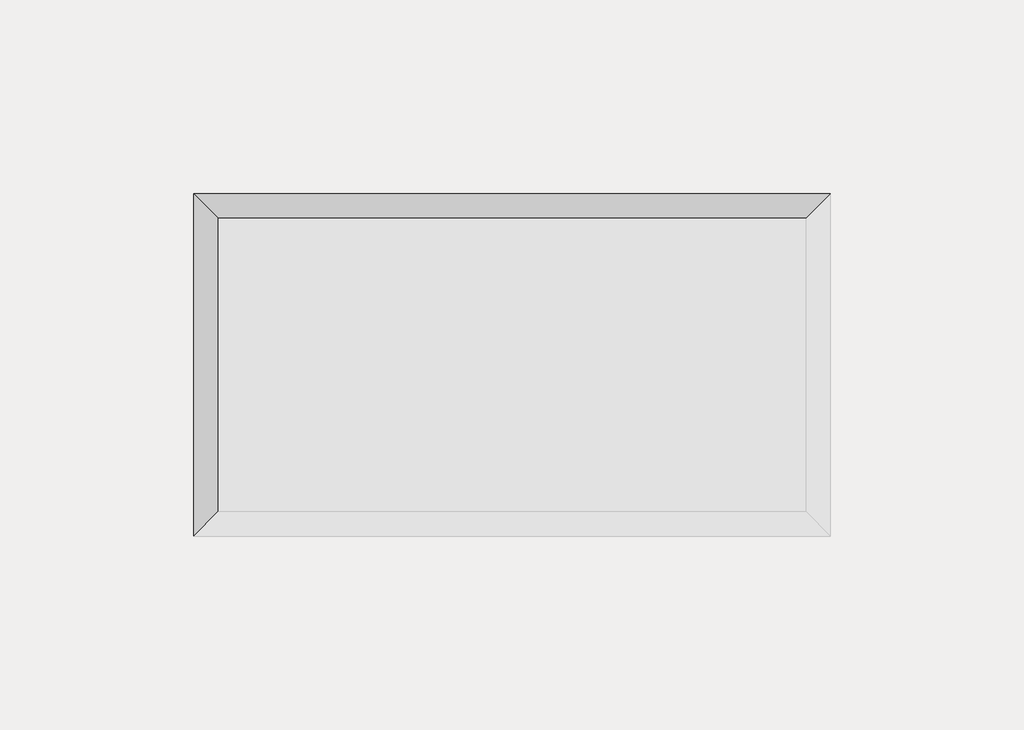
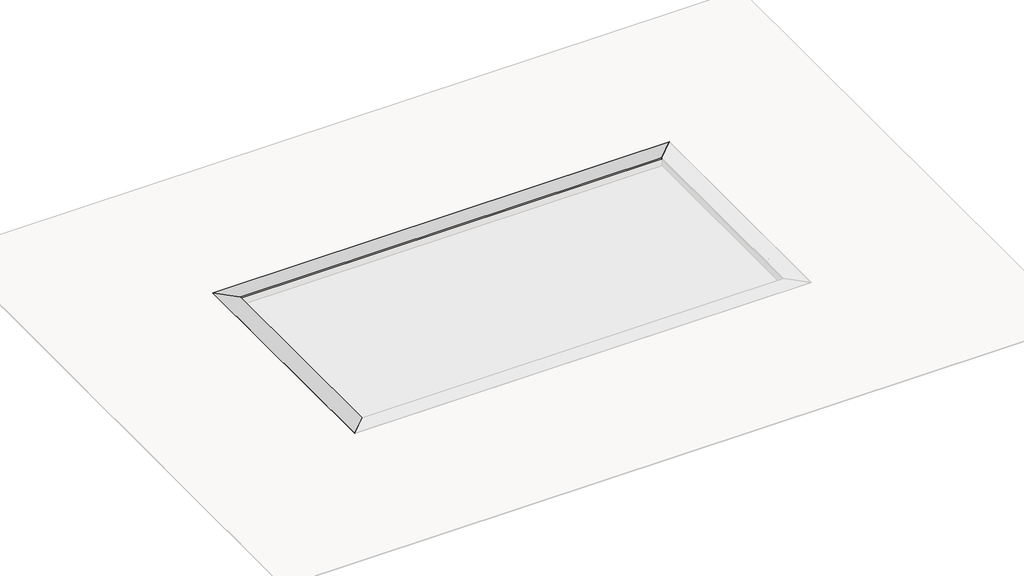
# One storey, part 2 of 6: 5 proxies.
"""IFC4 building model written with IfcOpenShell, lengths in millimetres."""

from ifc_helpers import new_model, si_unit, origin, place, context, project, spatial, faceted_brep, transform, mapped, element, save
from components import generic_models_9f74ba0b

model = new_model("IFC4")

# Units and contexts
model_context = context("Model", 3, world=origin())
ifc_project = project(units=[si_unit("LENGTHUNIT", "METRE", prefix="MILLI")], contexts=[model_context])

# Site, building, storey
site = spatial("IfcSite", under=ifc_project)
building = spatial("IfcBuilding", under=site)
storey = spatial("IfcBuildingStorey", under=building, Name="EXAGRES_NUBIA Series_Pool_Examples", Elevation=18000.0)

# Proxies
placement = place(None, origin())
element("IfcBuildingElementProxy", 1, Name="Wall Sweeps", at=placement, inside=storey, context=model_context, shape_type="Brep", body=[
    faceted_brep([(-13341.8828161, -4530.6632512, 18000.0), (-13328.8828161, -4543.6632512, 18000.0), (-13328.8828161, -4543.6632512, 18033.0), (-13658.8828161, -4213.6632512, 18033.0), (-13658.8828161, -4213.6632512, 18021.0), (-13652.8828161, -4219.6632512, 18021.0), (-13652.8828161, -4219.6632512, 18022.0), (-13648.8828161, -4223.6632512, 18022.0), (-13648.8828161, -4223.6632512, 18021.0), (-13642.8828161, -4229.6632512, 18021.0), (-13642.8828161, -4229.6632512, 18022.0), (-13638.8828161, -4233.6632512, 18022.0), (-13638.8828161, -4233.6632512, 18021.0), (-13632.8828161, -4239.6632512, 18021.0), (-13632.8828161, -4239.6632512, 18022.0), (-13628.8828161, -4243.6632512, 18022.0), (-13628.8828161, -4243.6632512, 18021.0), (-13622.8828161, -4249.6632512, 18021.0), (-13622.8828161, -4249.6632512, 18022.0), (-13618.8828161, -4253.6632512, 18022.0), (-13618.8828161, -4253.6632512, 18021.0), (-13612.8828161, -4259.6632512, 18021.0), (-13612.8828161, -4259.6632512, 18022.0), (-13608.8828161, -4263.6632512, 18022.0), (-13608.8828161, -4263.6632512, 18021.0), (-13602.8828161, -4269.6632512, 18021.0), (-13602.8828161, -4269.6632512, 18022.0), (-13598.8828161, -4273.6632512, 18022.0), (-13598.8828161, -4273.6632512, 18021.0), (-13592.8828161, -4279.6632512, 18021.0), (-13592.8828161, -4279.6632512, 18022.0), (-13588.8828161, -4283.6632512, 18022.0), (-13588.8828161, -4283.6632512, 18021.0), (-13582.8828161, -4289.6632512, 18021.0), (-13582.8828161, -4289.6632512, 18022.0), (-13578.8828161, -4293.6632512, 18022.0), (-13578.8828161, -4293.6632512, 18021.0), (-13572.8828161, -4299.6632512, 18021.0), (-13572.8828161, -4299.6632512, 18022.0), (-13568.8828161, -4303.6632512, 18022.0), (-13568.8828161, -4303.6632512, 18021.0), (-13562.8828161, -4309.6632512, 18021.0), (-13562.8828161, -4309.6632512, 18022.0), (-13558.8828161, -4313.6632512, 18022.0), (-13558.8828161, -4313.6632512, 18021.0), (-13552.8828161, -4319.6632512, 18021.0), (-13552.8828161, -4319.6632512, 18022.0), (-13548.8828161, -4323.6632512, 18022.0), (-13548.8828161, -4323.6632512, 18021.0), (-13542.8828161, -4329.6632512, 18021.0), (-13542.8828161, -4329.6632512, 18022.0), (-13538.8828161, -4333.6632512, 18022.0), (-13538.8828161, -4333.6632512, 18021.0), (-13532.8828161, -4339.6632512, 18021.0), (-13532.8828161, -4339.6632512, 18022.0), (-13528.8828161, -4343.6632512, 18022.0), (-13528.8828161, -4343.6632512, 18021.0), (-13522.8828161, -4349.6632512, 18021.0), (-13522.8828161, -4349.6632512, 18022.0), (-13518.8828161, -4353.6632512, 18022.0), (-13518.8828161, -4353.6632512, 18021.0), (-13512.8828161, -4359.6632512, 18021.0), (-13512.8828161, -4359.6632512, 18022.0), (-13508.8828161, -4363.6632512, 18022.0), (-13508.8828161, -4363.6632512, 18021.0), (-13502.8828161, -4369.6632512, 18021.0), (-13502.8828161, -4369.6632512, 18022.0), (-13498.8828161, -4373.6632512, 18022.0), (-13498.8828161, -4373.6632512, 18021.0), (-13492.8828161, -4379.6632512, 18021.0), (-13492.8828161, -4379.6632512, 18022.0), (-13488.8828161, -4383.6632512, 18022.0), (-13488.8828161, -4383.6632512, 18021.0), (-13482.8828161, -4389.6632512, 18021.0), (-13482.8828161, -4389.6632512, 18022.0), (-13478.8828161, -4393.6632512, 18022.0), (-13478.8828161, -4393.6632512, 18021.0), (-13472.8828161, -4399.6632512, 18021.0), (-13472.8828161, -4399.6632512, 18022.0), (-13468.8828161, -4403.6632512, 18022.0), (-13468.8828161, -4403.6632512, 18021.0), (-13462.8828161, -4409.6632512, 18021.0), (-13462.8828161, -4409.6632512, 18022.0), (-13458.8828161, -4413.6632512, 18022.0), (-13458.8828161, -4413.6632512, 18021.0), (-13452.8828161, -4419.6632512, 18021.0), (-13452.8828161, -4419.6632512, 18022.0), (-13448.8828161, -4423.6632512, 18022.0), (-13448.8828161, -4423.6632512, 18021.0), (-13442.8828161, -4429.6632512, 18021.0), (-13442.8828161, -4429.6632512, 18022.0), (-13438.8828161, -4433.6632512, 18022.0), (-13438.8828161, -4433.6632512, 18021.0), (-13432.8828161, -4439.6632512, 18021.0), (-13432.8828161, -4439.6632512, 18022.0), (-13428.8828161, -4443.6632512, 18022.0), (-13428.8828161, -4443.6632512, 18021.0), (-13422.8828161, -4449.6632512, 18021.0), (-13422.8828161, -4449.6632512, 18022.0), (-13418.8828161, -4453.6632512, 18022.0), (-13418.8828161, -4453.6632512, 18021.0), (-13412.8828161, -4459.6632512, 18021.0), (-13412.8828161, -4459.6632512, 18022.0), (-13408.8828161, -4463.6632512, 18022.0), (-13408.8828161, -4463.6632512, 18021.0), (-13402.8828161, -4469.6632512, 18021.0), (-13402.8828161, -4469.6632512, 18022.0), (-13398.8828161, -4473.6632512, 18022.0), (-13398.8828161, -4473.6632512, 18021.0), (-13392.8828161, -4479.6632512, 18021.0), (-13392.8828161, -4479.6632512, 18022.0), (-13388.8828161, -4483.6632512, 18022.0), (-13388.8828161, -4483.6632512, 18021.0), (-13382.8828161, -4489.6632512, 18021.0), (-13382.8828161, -4489.6632512, 18022.0), (-13378.8828161, -4493.6632512, 18022.0), (-13378.8828161, -4493.6632512, 18021.0), (-13372.8828161, -4499.6632512, 18021.0), (-13372.8828161, -4499.6632512, 18022.0), (-13368.8828161, -4503.6632512, 18022.0), (-13368.8828161, -4503.6632512, 18021.0), (-13362.8828161, -4509.6632512, 18021.0), (-13362.8828161, -4509.6632512, 18022.0), (-13358.8828161, -4513.6632512, 18022.0), (-13358.8828161, -4513.6632512, 18021.0), (-13352.8828161, -4519.6632512, 18021.0), (-13352.8828161, -4519.6632512, 18022.0), (-13348.8828161, -4523.6632512, 18022.0), (-13348.8828161, -4523.6632512, 18021.0), (-13341.8828161, -4530.6632512, 18021.0), (-13341.8828161, -4530.6632512, 18014.0), (-13340.8828161, -4531.6632512, 18014.0), (-13340.8828161, -4531.6632512, 18008.0), (-13341.8828161, -4530.6632512, 18008.0), (-5315.8828161, -4530.6632512, 18000.0), (-5315.8828161, -4530.6632512, 18008.0), (-5316.8828161, -4531.6632512, 18008.0), (-5316.8828161, -4531.6632512, 18014.0), (-5315.8828161, -4530.6632512, 18014.0), (-5315.8828161, -4530.6632512, 18021.0), (-5308.8828161, -4523.6632512, 18021.0), (-5308.8828161, -4523.6632512, 18022.0), (-5304.8828161, -4519.6632512, 18022.0), (-5304.8828161, -4519.6632512, 18021.0), (-5298.8828161, -4513.6632512, 18021.0), (-5298.8828161, -4513.6632512, 18022.0), (-5294.8828161, -4509.6632512, 18022.0), (-5294.8828161, -4509.6632512, 18021.0), (-5288.8828161, -4503.6632512, 18021.0), (-5288.8828161, -4503.6632512, 18022.0), (-5284.8828161, -4499.6632512, 18022.0), (-5284.8828161, -4499.6632512, 18021.0), (-5278.8828161, -4493.6632512, 18021.0), (-5278.8828161, -4493.6632512, 18022.0), (-5274.8828161, -4489.6632512, 18022.0), (-5274.8828161, -4489.6632512, 18021.0), (-5268.8828161, -4483.6632512, 18021.0), (-5268.8828161, -4483.6632512, 18022.0), (-5264.8828161, -4479.6632512, 18022.0), (-5264.8828161, -4479.6632512, 18021.0), (-5258.8828161, -4473.6632512, 18021.0), (-5258.8828161, -4473.6632512, 18022.0), (-5254.8828161, -4469.6632512, 18022.0), (-5254.8828161, -4469.6632512, 18021.0), (-5248.8828161, -4463.6632512, 18021.0), (-5248.8828161, -4463.6632512, 18022.0), (-5244.8828161, -4459.6632512, 18022.0), (-5244.8828161, -4459.6632512, 18021.0), (-5238.8828161, -4453.6632512, 18021.0), (-5238.8828161, -4453.6632512, 18022.0), (-5234.8828161, -4449.6632512, 18022.0), (-5234.8828161, -4449.6632512, 18021.0), (-5228.8828161, -4443.6632512, 18021.0), (-5228.8828161, -4443.6632512, 18022.0), (-5224.8828161, -4439.6632512, 18022.0), (-5224.8828161, -4439.6632512, 18021.0), (-5218.8828161, -4433.6632512, 18021.0), (-5218.8828161, -4433.6632512, 18022.0), (-5214.8828161, -4429.6632512, 18022.0), (-5214.8828161, -4429.6632512, 18021.0), (-5208.8828161, -4423.6632512, 18021.0), (-5208.8828161, -4423.6632512, 18022.0), (-5204.8828161, -4419.6632512, 18022.0), (-5204.8828161, -4419.6632512, 18021.0), (-5198.8828161, -4413.6632512, 18021.0), (-5198.8828161, -4413.6632512, 18022.0), (-5194.8828161, -4409.6632512, 18022.0), (-5194.8828161, -4409.6632512, 18021.0), (-5188.8828161, -4403.6632512, 18021.0), (-5188.8828161, -4403.6632512, 18022.0), (-5184.8828161, -4399.6632512, 18022.0), (-5184.8828161, -4399.6632512, 18021.0), (-5178.8828161, -4393.6632512, 18021.0), (-5178.8828161, -4393.6632512, 18022.0), (-5174.8828161, -4389.6632512, 18022.0), (-5174.8828161, -4389.6632512, 18021.0), (-5168.8828161, -4383.6632512, 18021.0), (-5168.8828161, -4383.6632512, 18022.0), (-5164.8828161, -4379.6632512, 18022.0), (-5164.8828161, -4379.6632512, 18021.0), (-5158.8828161, -4373.6632512, 18021.0), (-5158.8828161, -4373.6632512, 18022.0), (-5154.8828161, -4369.6632512, 18022.0), (-5154.8828161, -4369.6632512, 18021.0), (-5148.8828161, -4363.6632512, 18021.0), (-5148.8828161, -4363.6632512, 18022.0), (-5144.8828161, -4359.6632512, 18022.0), (-5144.8828161, -4359.6632512, 18021.0), (-5138.8828161, -4353.6632512, 18021.0), (-5138.8828161, -4353.6632512, 18022.0), (-5134.8828161, -4349.6632512, 18022.0), (-5134.8828161, -4349.6632512, 18021.0), (-5128.8828161, -4343.6632512, 18021.0), (-5128.8828161, -4343.6632512, 18022.0), (-5124.8828161, -4339.6632512, 18022.0), (-5124.8828161, -4339.6632512, 18021.0), (-5118.8828161, -4333.6632512, 18021.0), (-5118.8828161, -4333.6632512, 18022.0), (-5114.8828161, -4329.6632512, 18022.0), (-5114.8828161, -4329.6632512, 18021.0), (-5108.8828161, -4323.6632512, 18021.0), (-5108.8828161, -4323.6632512, 18022.0), (-5104.8828161, -4319.6632512, 18022.0), (-5104.8828161, -4319.6632512, 18021.0), (-5098.8828161, -4313.6632512, 18021.0), (-5098.8828161, -4313.6632512, 18022.0), (-5094.8828161, -4309.6632512, 18022.0), (-5094.8828161, -4309.6632512, 18021.0), (-5088.8828161, -4303.6632512, 18021.0), (-5088.8828161, -4303.6632512, 18022.0), (-5084.8828161, -4299.6632512, 18022.0), (-5084.8828161, -4299.6632512, 18021.0), (-5078.8828161, -4293.6632512, 18021.0), (-5078.8828161, -4293.6632512, 18022.0), (-5074.8828161, -4289.6632512, 18022.0), (-5074.8828161, -4289.6632512, 18021.0), (-5068.8828161, -4283.6632512, 18021.0), (-5068.8828161, -4283.6632512, 18022.0), (-5064.8828161, -4279.6632512, 18022.0), (-5064.8828161, -4279.6632512, 18021.0), (-5058.8828161, -4273.6632512, 18021.0), (-5058.8828161, -4273.6632512, 18022.0), (-5054.8828161, -4269.6632512, 18022.0), (-5054.8828161, -4269.6632512, 18021.0), (-5048.8828161, -4263.6632512, 18021.0), (-5048.8828161, -4263.6632512, 18022.0), (-5044.8828161, -4259.6632512, 18022.0), (-5044.8828161, -4259.6632512, 18021.0), (-5038.8828161, -4253.6632512, 18021.0), (-5038.8828161, -4253.6632512, 18022.0), (-5034.8828161, -4249.6632512, 18022.0), (-5034.8828161, -4249.6632512, 18021.0), (-5028.8828161, -4243.6632512, 18021.0), (-5028.8828161, -4243.6632512, 18022.0), (-5024.8828161, -4239.6632512, 18022.0), (-5024.8828161, -4239.6632512, 18021.0), (-5018.8828161, -4233.6632512, 18021.0), (-5018.8828161, -4233.6632512, 18022.0), (-5014.8828161, -4229.6632512, 18022.0), (-5014.8828161, -4229.6632512, 18021.0), (-5008.8828161, -4223.6632512, 18021.0), (-5008.8828161, -4223.6632512, 18022.0), (-5004.8828161, -4219.6632512, 18022.0), (-5004.8828161, -4219.6632512, 18021.0), (-4998.8828161, -4213.6632512, 18021.0), (-4998.8828161, -4213.6632512, 18033.0), (-5328.8828161, -4543.6632512, 18033.0), (-5328.8828161, -4543.6632512, 18000.0)], [[[0, 1, 2, 3, 4, 5, 6, 7, 8, 9, 10, 11, 12, 13, 14, 15, 16, 17, 18, 19, 20, 21, 22, 23, 24, 25, 26, 27, 28, 29, 30, 31, 32, 33, 34, 35, 36, 37, 38, 39, 40, 41, 42, 43, 44, 45, 46, 47, 48, 49, 50, 51, 52, 53, 54, 55, 56, 57, 58, 59, 60, 61, 62, 63, 64, 65, 66, 67, 68, 69, 70, 71, 72, 73, 74, 75, 76, 77, 78, 79, 80, 81, 82, 83, 84, 85, 86, 87, 88, 89, 90, 91, 92, 93, 94, 95, 96, 97, 98, 99, 100, 101, 102, 103, 104, 105, 106, 107, 108, 109, 110, 111, 112, 113, 114, 115, 116, 117, 118, 119, 120, 121, 122, 123, 124, 125, 126, 127, 128, 129, 130, 131, 132, 133]], [[134, 135, 136, 137, 138, 139, 140, 141, 142, 143, 144, 145, 146, 147, 148, 149, 150, 151, 152, 153, 154, 155, 156, 157, 158, 159, 160, 161, 162, 163, 164, 165, 166, 167, 168, 169, 170, 171, 172, 173, 174, 175, 176, 177, 178, 179, 180, 181, 182, 183, 184, 185, 186, 187, 188, 189, 190, 191, 192, 193, 194, 195, 196, 197, 198, 199, 200, 201, 202, 203, 204, 205, 206, 207, 208, 209, 210, 211, 212, 213, 214, 215, 216, 217, 218, 219, 220, 221, 222, 223, 224, 225, 226, 227, 228, 229, 230, 231, 232, 233, 234, 235, 236, 237, 238, 239, 240, 241, 242, 243, 244, 245, 246, 247, 248, 249, 250, 251, 252, 253, 254, 255, 256, 257, 258, 259, 260, 261, 262, 263, 264, 265, 266, 267]], [[1, 0, 134, 267]], [[2, 1, 267, 266]], [[3, 2, 266, 265]], [[4, 3, 265, 264]], [[5, 4, 264, 263]], [[6, 5, 263, 262]], [[7, 6, 262, 261]], [[8, 7, 261, 260]], [[9, 8, 260, 259]], [[10, 9, 259, 258]], [[11, 10, 258, 257]], [[12, 11, 257, 256]], [[13, 12, 256, 255]], [[14, 13, 255, 254]], [[15, 14, 254, 253]], [[16, 15, 253, 252]], [[17, 16, 252, 251]], [[18, 17, 251, 250]], [[19, 18, 250, 249]], [[20, 19, 249, 248]], [[21, 20, 248, 247]], [[22, 21, 247, 246]], [[23, 22, 246, 245]], [[24, 23, 245, 244]], [[25, 24, 244, 243]], [[26, 25, 243, 242]], [[27, 26, 242, 241]], [[28, 27, 241, 240]], [[29, 28, 240, 239]], [[30, 29, 239, 238]], [[31, 30, 238, 237]], [[32, 31, 237, 236]], [[33, 32, 236, 235]], [[34, 33, 235, 234]], [[35, 34, 234, 233]], [[36, 35, 233, 232]], [[37, 36, 232, 231]], [[38, 37, 231, 230]], [[39, 38, 230, 229]], [[40, 39, 229, 228]], [[41, 40, 228, 227]], [[42, 41, 227, 226]], [[43, 42, 226, 225]], [[44, 43, 225, 224]], [[45, 44, 224, 223]], [[46, 45, 223, 222]], [[47, 46, 222, 221]], [[48, 47, 221, 220]], [[49, 48, 220, 219]], [[50, 49, 219, 218]], [[51, 50, 218, 217]], [[52, 51, 217, 216]], [[53, 52, 216, 215]], [[54, 53, 215, 214]], [[55, 54, 214, 213]], [[56, 55, 213, 212]], [[57, 56, 212, 211]], [[58, 57, 211, 210]], [[59, 58, 210, 209]], [[60, 59, 209, 208]], [[61, 60, 208, 207]], [[62, 61, 207, 206]], [[63, 62, 206, 205]], [[64, 63, 205, 204]], [[65, 64, 204, 203]], [[66, 65, 203, 202]], [[67, 66, 202, 201]], [[68, 67, 201, 200]], [[69, 68, 200, 199]], [[70, 69, 199, 198]], [[71, 70, 198, 197]], [[72, 71, 197, 196]], [[73, 72, 196, 195]], [[74, 73, 195, 194]], [[75, 74, 194, 193]], [[76, 75, 193, 192]], [[77, 76, 192, 191]], [[78, 77, 191, 190]], [[79, 78, 190, 189]], [[80, 79, 189, 188]], [[81, 80, 188, 187]], [[82, 81, 187, 186]], [[83, 82, 186, 185]], [[84, 83, 185, 184]], [[85, 84, 184, 183]], [[86, 85, 183, 182]], [[87, 86, 182, 181]], [[88, 87, 181, 180]], [[89, 88, 180, 179]], [[90, 89, 179, 178]], [[91, 90, 178, 177]], [[92, 91, 177, 176]], [[93, 92, 176, 175]], [[94, 93, 175, 174]], [[95, 94, 174, 173]], [[96, 95, 173, 172]], [[97, 96, 172, 171]], [[98, 97, 171, 170]], [[99, 98, 170, 169]], [[100, 99, 169, 168]], [[101, 100, 168, 167]], [[102, 101, 167, 166]], [[103, 102, 166, 165]], [[104, 103, 165, 164]], [[105, 104, 164, 163]], [[106, 105, 163, 162]], [[107, 106, 162, 161]], [[108, 107, 161, 160]], [[109, 108, 160, 159]], [[110, 109, 159, 158]], [[111, 110, 158, 157]], [[112, 111, 157, 156]], [[113, 112, 156, 155]], [[114, 113, 155, 154]], [[115, 114, 154, 153]], [[116, 115, 153, 152]], [[117, 116, 152, 151]], [[118, 117, 151, 150]], [[119, 118, 150, 149]], [[120, 119, 149, 148]], [[121, 120, 148, 147]], [[122, 121, 147, 146]], [[123, 122, 146, 145]], [[124, 123, 145, 144]], [[125, 124, 144, 143]], [[126, 125, 143, 142]], [[127, 126, 142, 141]], [[128, 127, 141, 140]], [[129, 128, 140, 139]], [[130, 129, 139, 138]], [[131, 130, 138, 137]], [[132, 131, 137, 136]], [[133, 132, 136, 135]], [[0, 133, 135, 134]]]),
])
element("IfcBuildingElementProxy", 2, Name="Wall Sweeps", at=placement, inside=storey, context=model_context, shape_type="Brep", body=[
    faceted_brep([(-5008.8828161, -8863.6632512, 17818.74), (-5103.8828161, -8768.6632512, 17818.74), (-5313.8828161, -8558.6632512, 17818.74), (-5313.8828161, -8558.6632512, 18000.0), (-5313.8828161, -8558.6632512, 18018.74), (-5008.8828161, -8863.6632512, 18018.74), (-13648.8828161, -8863.6632512, 17818.74), (-13648.8828161, -8863.6632512, 18018.74), (-13343.8828161, -8558.6632512, 18018.74), (-13343.8828161, -8558.6632512, 18000.0), (-13343.8828161, -8558.6632512, 17818.74), (-13553.8828161, -8768.6632512, 17818.74)], [[[0, 1, 2, 3, 4, 5]], [[6, 7, 8, 9, 10, 11]], [[4, 3, 2, 10, 9, 8]], [[2, 1, 0, 6, 11, 10]], [[5, 4, 8, 7]], [[0, 5, 7, 6]]]),
])
element("IfcBuildingElementProxy", 3, Name="Wall Sweeps", at=placement, inside=storey, context=model_context, shape_type="Brep", body=[
    faceted_brep([(-13341.8828161, -8556.6632512, 18000.0), (-13328.8828161, -8543.6632512, 18000.0), (-13328.8828161, -8543.6632512, 18033.0), (-13658.8828161, -8873.6632512, 18033.0), (-13658.8828161, -8873.6632512, 18021.0), (-13652.8828161, -8867.6632512, 18021.0), (-13652.8828161, -8867.6632512, 18022.0), (-13648.8828161, -8863.6632512, 18022.0), (-13648.8828161, -8863.6632512, 18021.0), (-13642.8828161, -8857.6632512, 18021.0), (-13642.8828161, -8857.6632512, 18022.0), (-13638.8828161, -8853.6632512, 18022.0), (-13638.8828161, -8853.6632512, 18021.0), (-13632.8828161, -8847.6632512, 18021.0), (-13632.8828161, -8847.6632512, 18022.0), (-13628.8828161, -8843.6632512, 18022.0), (-13628.8828161, -8843.6632512, 18021.0), (-13622.8828161, -8837.6632512, 18021.0), (-13622.8828161, -8837.6632512, 18022.0), (-13618.8828161, -8833.6632512, 18022.0), (-13618.8828161, -8833.6632512, 18021.0), (-13612.8828161, -8827.6632512, 18021.0), (-13612.8828161, -8827.6632512, 18022.0), (-13608.8828161, -8823.6632512, 18022.0), (-13608.8828161, -8823.6632512, 18021.0), (-13602.8828161, -8817.6632512, 18021.0), (-13602.8828161, -8817.6632512, 18022.0), (-13598.8828161, -8813.6632512, 18022.0), (-13598.8828161, -8813.6632512, 18021.0), (-13592.8828161, -8807.6632512, 18021.0), (-13592.8828161, -8807.6632512, 18022.0), (-13588.8828161, -8803.6632512, 18022.0), (-13588.8828161, -8803.6632512, 18021.0), (-13582.8828161, -8797.6632512, 18021.0), (-13582.8828161, -8797.6632512, 18022.0), (-13578.8828161, -8793.6632512, 18022.0), (-13578.8828161, -8793.6632512, 18021.0), (-13572.8828161, -8787.6632512, 18021.0), (-13572.8828161, -8787.6632512, 18022.0), (-13568.8828161, -8783.6632512, 18022.0), (-13568.8828161, -8783.6632512, 18021.0), (-13562.8828161, -8777.6632512, 18021.0), (-13562.8828161, -8777.6632512, 18022.0), (-13558.8828161, -8773.6632512, 18022.0), (-13558.8828161, -8773.6632512, 18021.0), (-13552.8828161, -8767.6632512, 18021.0), (-13552.8828161, -8767.6632512, 18022.0), (-13548.8828161, -8763.6632512, 18022.0), (-13548.8828161, -8763.6632512, 18021.0), (-13542.8828161, -8757.6632512, 18021.0), (-13542.8828161, -8757.6632512, 18022.0), (-13538.8828161, -8753.6632512, 18022.0), (-13538.8828161, -8753.6632512, 18021.0), (-13532.8828161, -8747.6632512, 18021.0), (-13532.8828161, -8747.6632512, 18022.0), (-13528.8828161, -8743.6632512, 18022.0), (-13528.8828161, -8743.6632512, 18021.0), (-13522.8828161, -8737.6632512, 18021.0), (-13522.8828161, -8737.6632512, 18022.0), (-13518.8828161, -8733.6632512, 18022.0), (-13518.8828161, -8733.6632512, 18021.0), (-13512.8828161, -8727.6632512, 18021.0), (-13512.8828161, -8727.6632512, 18022.0), (-13508.8828161, -8723.6632512, 18022.0), (-13508.8828161, -8723.6632512, 18021.0), (-13502.8828161, -8717.6632512, 18021.0), (-13502.8828161, -8717.6632512, 18022.0), (-13498.8828161, -8713.6632512, 18022.0), (-13498.8828161, -8713.6632512, 18021.0), (-13492.8828161, -8707.6632512, 18021.0), (-13492.8828161, -8707.6632512, 18022.0), (-13488.8828161, -8703.6632512, 18022.0), (-13488.8828161, -8703.6632512, 18021.0), (-13482.8828161, -8697.6632512, 18021.0), (-13482.8828161, -8697.6632512, 18022.0), (-13478.8828161, -8693.6632512, 18022.0), (-13478.8828161, -8693.6632512, 18021.0), (-13472.8828161, -8687.6632512, 18021.0), (-13472.8828161, -8687.6632512, 18022.0), (-13468.8828161, -8683.6632512, 18022.0), (-13468.8828161, -8683.6632512, 18021.0), (-13462.8828161, -8677.6632512, 18021.0), (-13462.8828161, -8677.6632512, 18022.0), (-13458.8828161, -8673.6632512, 18022.0), (-13458.8828161, -8673.6632512, 18021.0), (-13452.8828161, -8667.6632512, 18021.0), (-13452.8828161, -8667.6632512, 18022.0), (-13448.8828161, -8663.6632512, 18022.0), (-13448.8828161, -8663.6632512, 18021.0), (-13442.8828161, -8657.6632512, 18021.0), (-13442.8828161, -8657.6632512, 18022.0), (-13438.8828161, -8653.6632512, 18022.0), (-13438.8828161, -8653.6632512, 18021.0), (-13432.8828161, -8647.6632512, 18021.0), (-13432.8828161, -8647.6632512, 18022.0), (-13428.8828161, -8643.6632512, 18022.0), (-13428.8828161, -8643.6632512, 18021.0), (-13422.8828161, -8637.6632512, 18021.0), (-13422.8828161, -8637.6632512, 18022.0), (-13418.8828161, -8633.6632512, 18022.0), (-13418.8828161, -8633.6632512, 18021.0), (-13412.8828161, -8627.6632512, 18021.0), (-13412.8828161, -8627.6632512, 18022.0), (-13408.8828161, -8623.6632512, 18022.0), (-13408.8828161, -8623.6632512, 18021.0), (-13402.8828161, -8617.6632512, 18021.0), (-13402.8828161, -8617.6632512, 18022.0), (-13398.8828161, -8613.6632512, 18022.0), (-13398.8828161, -8613.6632512, 18021.0), (-13392.8828161, -8607.6632512, 18021.0), (-13392.8828161, -8607.6632512, 18022.0), (-13388.8828161, -8603.6632512, 18022.0), (-13388.8828161, -8603.6632512, 18021.0), (-13382.8828161, -8597.6632512, 18021.0), (-13382.8828161, -8597.6632512, 18022.0), (-13378.8828161, -8593.6632512, 18022.0), (-13378.8828161, -8593.6632512, 18021.0), (-13372.8828161, -8587.6632512, 18021.0), (-13372.8828161, -8587.6632512, 18022.0), (-13368.8828161, -8583.6632512, 18022.0), (-13368.8828161, -8583.6632512, 18021.0), (-13362.8828161, -8577.6632512, 18021.0), (-13362.8828161, -8577.6632512, 18022.0), (-13358.8828161, -8573.6632512, 18022.0), (-13358.8828161, -8573.6632512, 18021.0), (-13352.8828161, -8567.6632512, 18021.0), (-13352.8828161, -8567.6632512, 18022.0), (-13348.8828161, -8563.6632512, 18022.0), (-13348.8828161, -8563.6632512, 18021.0), (-13341.8828161, -8556.6632512, 18021.0), (-13341.8828161, -8556.6632512, 18014.0), (-13340.8828161, -8555.6632512, 18014.0), (-13340.8828161, -8555.6632512, 18008.0), (-13341.8828161, -8556.6632512, 18008.0), (-13341.8828161, -4530.6632512, 18000.0), (-13341.8828161, -4530.6632512, 18008.0), (-13340.8828161, -4531.6632512, 18008.0), (-13340.8828161, -4531.6632512, 18014.0), (-13341.8828161, -4530.6632512, 18014.0), (-13341.8828161, -4530.6632512, 18021.0), (-13348.8828161, -4523.6632512, 18021.0), (-13348.8828161, -4523.6632512, 18022.0), (-13352.8828161, -4519.6632512, 18022.0), (-13352.8828161, -4519.6632512, 18021.0), (-13358.8828161, -4513.6632512, 18021.0), (-13358.8828161, -4513.6632512, 18022.0), (-13362.8828161, -4509.6632512, 18022.0), (-13362.8828161, -4509.6632512, 18021.0), (-13368.8828161, -4503.6632512, 18021.0), (-13368.8828161, -4503.6632512, 18022.0), (-13372.8828161, -4499.6632512, 18022.0), (-13372.8828161, -4499.6632512, 18021.0), (-13378.8828161, -4493.6632512, 18021.0), (-13378.8828161, -4493.6632512, 18022.0), (-13382.8828161, -4489.6632512, 18022.0), (-13382.8828161, -4489.6632512, 18021.0), (-13388.8828161, -4483.6632512, 18021.0), (-13388.8828161, -4483.6632512, 18022.0), (-13392.8828161, -4479.6632512, 18022.0), (-13392.8828161, -4479.6632512, 18021.0), (-13398.8828161, -4473.6632512, 18021.0), (-13398.8828161, -4473.6632512, 18022.0), (-13402.8828161, -4469.6632512, 18022.0), (-13402.8828161, -4469.6632512, 18021.0), (-13408.8828161, -4463.6632512, 18021.0), (-13408.8828161, -4463.6632512, 18022.0), (-13412.8828161, -4459.6632512, 18022.0), (-13412.8828161, -4459.6632512, 18021.0), (-13418.8828161, -4453.6632512, 18021.0), (-13418.8828161, -4453.6632512, 18022.0), (-13422.8828161, -4449.6632512, 18022.0), (-13422.8828161, -4449.6632512, 18021.0), (-13428.8828161, -4443.6632512, 18021.0), (-13428.8828161, -4443.6632512, 18022.0), (-13432.8828161, -4439.6632512, 18022.0), (-13432.8828161, -4439.6632512, 18021.0), (-13438.8828161, -4433.6632512, 18021.0), (-13438.8828161, -4433.6632512, 18022.0), (-13442.8828161, -4429.6632512, 18022.0), (-13442.8828161, -4429.6632512, 18021.0), (-13448.8828161, -4423.6632512, 18021.0), (-13448.8828161, -4423.6632512, 18022.0), (-13452.8828161, -4419.6632512, 18022.0), (-13452.8828161, -4419.6632512, 18021.0), (-13458.8828161, -4413.6632512, 18021.0), (-13458.8828161, -4413.6632512, 18022.0), (-13462.8828161, -4409.6632512, 18022.0), (-13462.8828161, -4409.6632512, 18021.0), (-13468.8828161, -4403.6632512, 18021.0), (-13468.8828161, -4403.6632512, 18022.0), (-13472.8828161, -4399.6632512, 18022.0), (-13472.8828161, -4399.6632512, 18021.0), (-13478.8828161, -4393.6632512, 18021.0), (-13478.8828161, -4393.6632512, 18022.0), (-13482.8828161, -4389.6632512, 18022.0), (-13482.8828161, -4389.6632512, 18021.0), (-13488.8828161, -4383.6632512, 18021.0), (-13488.8828161, -4383.6632512, 18022.0), (-13492.8828161, -4379.6632512, 18022.0), (-13492.8828161, -4379.6632512, 18021.0), (-13498.8828161, -4373.6632512, 18021.0), (-13498.8828161, -4373.6632512, 18022.0), (-13502.8828161, -4369.6632512, 18022.0), (-13502.8828161, -4369.6632512, 18021.0), (-13508.8828161, -4363.6632512, 18021.0), (-13508.8828161, -4363.6632512, 18022.0), (-13512.8828161, -4359.6632512, 18022.0), (-13512.8828161, -4359.6632512, 18021.0), (-13518.8828161, -4353.6632512, 18021.0), (-13518.8828161, -4353.6632512, 18022.0), (-13522.8828161, -4349.6632512, 18022.0), (-13522.8828161, -4349.6632512, 18021.0), (-13528.8828161, -4343.6632512, 18021.0), (-13528.8828161, -4343.6632512, 18022.0), (-13532.8828161, -4339.6632512, 18022.0), (-13532.8828161, -4339.6632512, 18021.0), (-13538.8828161, -4333.6632512, 18021.0), (-13538.8828161, -4333.6632512, 18022.0), (-13542.8828161, -4329.6632512, 18022.0), (-13542.8828161, -4329.6632512, 18021.0), (-13548.8828161, -4323.6632512, 18021.0), (-13548.8828161, -4323.6632512, 18022.0), (-13552.8828161, -4319.6632512, 18022.0), (-13552.8828161, -4319.6632512, 18021.0), (-13558.8828161, -4313.6632512, 18021.0), (-13558.8828161, -4313.6632512, 18022.0), (-13562.8828161, -4309.6632512, 18022.0), (-13562.8828161, -4309.6632512, 18021.0), (-13568.8828161, -4303.6632512, 18021.0), (-13568.8828161, -4303.6632512, 18022.0), (-13572.8828161, -4299.6632512, 18022.0), (-13572.8828161, -4299.6632512, 18021.0), (-13578.8828161, -4293.6632512, 18021.0), (-13578.8828161, -4293.6632512, 18022.0), (-13582.8828161, -4289.6632512, 18022.0), (-13582.8828161, -4289.6632512, 18021.0), (-13588.8828161, -4283.6632512, 18021.0), (-13588.8828161, -4283.6632512, 18022.0), (-13592.8828161, -4279.6632512, 18022.0), (-13592.8828161, -4279.6632512, 18021.0), (-13598.8828161, -4273.6632512, 18021.0), (-13598.8828161, -4273.6632512, 18022.0), (-13602.8828161, -4269.6632512, 18022.0), (-13602.8828161, -4269.6632512, 18021.0), (-13608.8828161, -4263.6632512, 18021.0), (-13608.8828161, -4263.6632512, 18022.0), (-13612.8828161, -4259.6632512, 18022.0), (-13612.8828161, -4259.6632512, 18021.0), (-13618.8828161, -4253.6632512, 18021.0), (-13618.8828161, -4253.6632512, 18022.0), (-13622.8828161, -4249.6632512, 18022.0), (-13622.8828161, -4249.6632512, 18021.0), (-13628.8828161, -4243.6632512, 18021.0), (-13628.8828161, -4243.6632512, 18022.0), (-13632.8828161, -4239.6632512, 18022.0), (-13632.8828161, -4239.6632512, 18021.0), (-13638.8828161, -4233.6632512, 18021.0), (-13638.8828161, -4233.6632512, 18022.0), (-13642.8828161, -4229.6632512, 18022.0), (-13642.8828161, -4229.6632512, 18021.0), (-13648.8828161, -4223.6632512, 18021.0), (-13648.8828161, -4223.6632512, 18022.0), (-13652.8828161, -4219.6632512, 18022.0), (-13652.8828161, -4219.6632512, 18021.0), (-13658.8828161, -4213.6632512, 18021.0), (-13658.8828161, -4213.6632512, 18033.0), (-13328.8828161, -4543.6632512, 18033.0), (-13328.8828161, -4543.6632512, 18000.0)], [[[0, 1, 2, 3, 4, 5, 6, 7, 8, 9, 10, 11, 12, 13, 14, 15, 16, 17, 18, 19, 20, 21, 22, 23, 24, 25, 26, 27, 28, 29, 30, 31, 32, 33, 34, 35, 36, 37, 38, 39, 40, 41, 42, 43, 44, 45, 46, 47, 48, 49, 50, 51, 52, 53, 54, 55, 56, 57, 58, 59, 60, 61, 62, 63, 64, 65, 66, 67, 68, 69, 70, 71, 72, 73, 74, 75, 76, 77, 78, 79, 80, 81, 82, 83, 84, 85, 86, 87, 88, 89, 90, 91, 92, 93, 94, 95, 96, 97, 98, 99, 100, 101, 102, 103, 104, 105, 106, 107, 108, 109, 110, 111, 112, 113, 114, 115, 116, 117, 118, 119, 120, 121, 122, 123, 124, 125, 126, 127, 128, 129, 130, 131, 132, 133]], [[134, 135, 136, 137, 138, 139, 140, 141, 142, 143, 144, 145, 146, 147, 148, 149, 150, 151, 152, 153, 154, 155, 156, 157, 158, 159, 160, 161, 162, 163, 164, 165, 166, 167, 168, 169, 170, 171, 172, 173, 174, 175, 176, 177, 178, 179, 180, 181, 182, 183, 184, 185, 186, 187, 188, 189, 190, 191, 192, 193, 194, 195, 196, 197, 198, 199, 200, 201, 202, 203, 204, 205, 206, 207, 208, 209, 210, 211, 212, 213, 214, 215, 216, 217, 218, 219, 220, 221, 222, 223, 224, 225, 226, 227, 228, 229, 230, 231, 232, 233, 234, 235, 236, 237, 238, 239, 240, 241, 242, 243, 244, 245, 246, 247, 248, 249, 250, 251, 252, 253, 254, 255, 256, 257, 258, 259, 260, 261, 262, 263, 264, 265, 266, 267]], [[1, 0, 134, 267]], [[2, 1, 267, 266]], [[3, 2, 266, 265]], [[4, 3, 265, 264]], [[5, 4, 264, 263]], [[6, 5, 263, 262]], [[7, 6, 262, 261]], [[8, 7, 261, 260]], [[9, 8, 260, 259]], [[10, 9, 259, 258]], [[11, 10, 258, 257]], [[12, 11, 257, 256]], [[13, 12, 256, 255]], [[14, 13, 255, 254]], [[15, 14, 254, 253]], [[16, 15, 253, 252]], [[17, 16, 252, 251]], [[18, 17, 251, 250]], [[19, 18, 250, 249]], [[20, 19, 249, 248]], [[21, 20, 248, 247]], [[22, 21, 247, 246]], [[23, 22, 246, 245]], [[24, 23, 245, 244]], [[25, 24, 244, 243]], [[26, 25, 243, 242]], [[27, 26, 242, 241]], [[28, 27, 241, 240]], [[29, 28, 240, 239]], [[30, 29, 239, 238]], [[31, 30, 238, 237]], [[32, 31, 237, 236]], [[33, 32, 236, 235]], [[34, 33, 235, 234]], [[35, 34, 234, 233]], [[36, 35, 233, 232]], [[37, 36, 232, 231]], [[38, 37, 231, 230]], [[39, 38, 230, 229]], [[40, 39, 229, 228]], [[41, 40, 228, 227]], [[42, 41, 227, 226]], [[43, 42, 226, 225]], [[44, 43, 225, 224]], [[45, 44, 224, 223]], [[46, 45, 223, 222]], [[47, 46, 222, 221]], [[48, 47, 221, 220]], [[49, 48, 220, 219]], [[50, 49, 219, 218]], [[51, 50, 218, 217]], [[52, 51, 217, 216]], [[53, 52, 216, 215]], [[54, 53, 215, 214]], [[55, 54, 214, 213]], [[56, 55, 213, 212]], [[57, 56, 212, 211]], [[58, 57, 211, 210]], [[59, 58, 210, 209]], [[60, 59, 209, 208]], [[61, 60, 208, 207]], [[62, 61, 207, 206]], [[63, 62, 206, 205]], [[64, 63, 205, 204]], [[65, 64, 204, 203]], [[66, 65, 203, 202]], [[67, 66, 202, 201]], [[68, 67, 201, 200]], [[69, 68, 200, 199]], [[70, 69, 199, 198]], [[71, 70, 198, 197]], [[72, 71, 197, 196]], [[73, 72, 196, 195]], [[74, 73, 195, 194]], [[75, 74, 194, 193]], [[76, 75, 193, 192]], [[77, 76, 192, 191]], [[78, 77, 191, 190]], [[79, 78, 190, 189]], [[80, 79, 189, 188]], [[81, 80, 188, 187]], [[82, 81, 187, 186]], [[83, 82, 186, 185]], [[84, 83, 185, 184]], [[85, 84, 184, 183]], [[86, 85, 183, 182]], [[87, 86, 182, 181]], [[88, 87, 181, 180]], [[89, 88, 180, 179]], [[90, 89, 179, 178]], [[91, 90, 178, 177]], [[92, 91, 177, 176]], [[93, 92, 176, 175]], [[94, 93, 175, 174]], [[95, 94, 174, 173]], [[96, 95, 173, 172]], [[97, 96, 172, 171]], [[98, 97, 171, 170]], [[99, 98, 170, 169]], [[100, 99, 169, 168]], [[101, 100, 168, 167]], [[102, 101, 167, 166]], [[103, 102, 166, 165]], [[104, 103, 165, 164]], [[105, 104, 164, 163]], [[106, 105, 163, 162]], [[107, 106, 162, 161]], [[108, 107, 161, 160]], [[109, 108, 160, 159]], [[110, 109, 159, 158]], [[111, 110, 158, 157]], [[112, 111, 157, 156]], [[113, 112, 156, 155]], [[114, 113, 155, 154]], [[115, 114, 154, 153]], [[116, 115, 153, 152]], [[117, 116, 152, 151]], [[118, 117, 151, 150]], [[119, 118, 150, 149]], [[120, 119, 149, 148]], [[121, 120, 148, 147]], [[122, 121, 147, 146]], [[123, 122, 146, 145]], [[124, 123, 145, 144]], [[125, 124, 144, 143]], [[126, 125, 143, 142]], [[127, 126, 142, 141]], [[128, 127, 141, 140]], [[129, 128, 140, 139]], [[130, 129, 139, 138]], [[131, 130, 138, 137]], [[132, 131, 137, 136]], [[133, 132, 136, 135]], [[0, 133, 135, 134]]]),
])
element("IfcBuildingElementProxy", 4, Name="Wall Sweeps", at=placement, inside=storey, context=model_context, shape_type="Brep", body=[
    faceted_brep([(-13648.8828161, -8863.6632512, 17818.74), (-13553.8828161, -8768.6632512, 17818.74), (-13343.8828161, -8558.6632512, 17818.74), (-13343.8828161, -8558.6632512, 18000.0), (-13343.8828161, -8558.6632512, 18018.74), (-13648.8828161, -8863.6632512, 18018.74), (-13648.8828161, -4223.6632512, 17818.74), (-13648.8828161, -4223.6632512, 18018.74), (-13343.8828161, -4528.6632512, 18018.74), (-13343.8828161, -4528.6632512, 17818.74), (-13343.8828161, -4543.6632512, 17818.74)], [[[0, 1, 2, 3, 4, 5]], [[6, 7, 8, 9]], [[4, 3, 2, 10, 9, 8]], [[2, 1, 0, 6, 9, 10]], [[5, 4, 8, 7]], [[0, 5, 7, 6]]]),
])
generic_models_shape = generic_models_9f74ba0b(model_context)
element("IfcBuildingElementProxy", 5, Name="EXAGRES - Half Round Coving : Nubia_33x4cm", ObjectType="EXAGRES - Half Round Coving : Nubia_33x4cm", at=placement, inside=storey, context=model_context, shape_type="MappedRepresentation", body=[
    mapped(generic_models_shape, transform((-7328.8828161, -8543.6632512, 16500.0), x_axis=(-0.9701425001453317, 0.0, 0.24253562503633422), y_axis=(0.24253562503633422, 0.0, 0.9701425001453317), z_axis=(0.0, 1.0, 0.0))),
])

save(model, "model.ifc")
